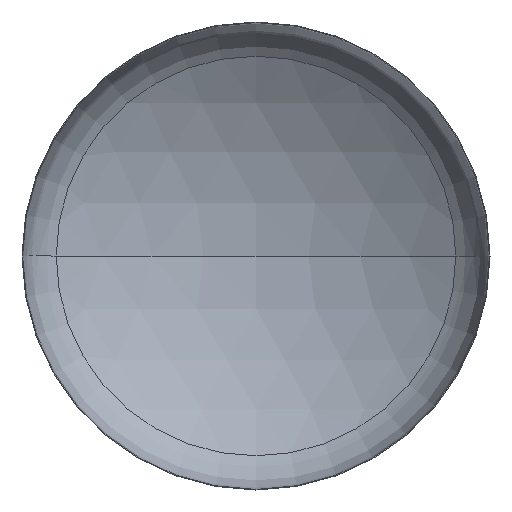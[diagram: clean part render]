
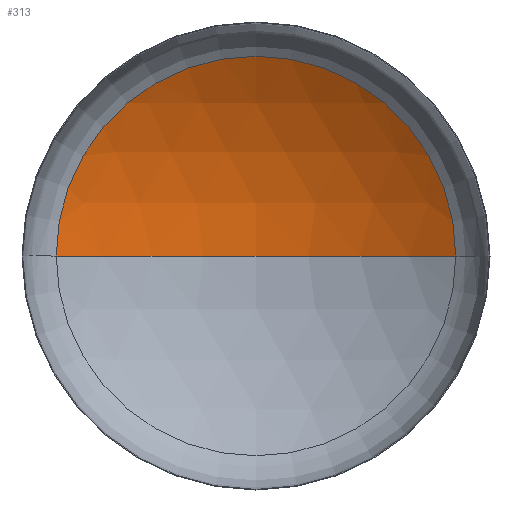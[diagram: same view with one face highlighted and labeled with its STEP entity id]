
A CAD part, front view. The second image highlights one B-rep face of the part: STEP entity #313.
In plain terms, the highlighted spherical face has radius 6400 mm.
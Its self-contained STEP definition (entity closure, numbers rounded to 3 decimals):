
#20 = CARTESIAN_POINT ( 'NONE',  ( 0., 1080.213, 0. ) ) ;
#27 = AXIS2_PLACEMENT_3D ( 'NONE', #89, #92, #52 ) ;
#36 = ORIENTED_EDGE ( 'NONE', *, *, #216, .F. ) ;
#39 = CIRCLE ( 'NONE', #86, 6400. ) ;
#52 = DIRECTION ( 'NONE',  ( -1., 0., 0. ) ) ;
#73 = AXIS2_PLACEMENT_3D ( 'NONE', #250, #137, #156 ) ;
#86 = AXIS2_PLACEMENT_3D ( 'NONE', #383, #337, #111 ) ;
#87 = AXIS2_PLACEMENT_3D ( 'NONE', #20, #164, #212 ) ;
#89 = CARTESIAN_POINT ( 'NONE',  ( 0., -4332.278, 0. ) ) ;
#92 = DIRECTION ( 'NONE',  ( 0., 0., -1. ) ) ;
#111 = DIRECTION ( 'NONE',  ( -1., 0., 0. ) ) ;
#128 = ORIENTED_EDGE ( 'NONE', *, *, #209, .T. ) ;
#130 = VERTEX_POINT ( 'NONE', #227 ) ;
#137 = DIRECTION ( 'NONE',  ( 0., 0., 1. ) ) ;
#156 = DIRECTION ( 'NONE',  ( 1., 0., 0. ) ) ;
#157 = VERTEX_POINT ( 'NONE', #316 ) ;
#164 = DIRECTION ( 'NONE',  ( 0., -1., 0. ) ) ;
#167 = EDGE_LOOP ( 'NONE', ( #36, #194, #128 ) ) ;
#181 = VERTEX_POINT ( 'NONE', #333 ) ;
#194 = ORIENTED_EDGE ( 'NONE', *, *, #213, .T. ) ;
#209 = EDGE_CURVE ( 'NONE', #157, #181, #328, .T. ) ;
#212 = DIRECTION ( 'NONE',  ( 1., 0., 0. ) ) ;
#213 = EDGE_CURVE ( 'NONE', #130, #157, #39, .T. ) ;
#216 = EDGE_CURVE ( 'NONE', #130, #181, #375, .T. ) ;
#227 = CARTESIAN_POINT ( 'NONE',  ( 0., 2067.722, 0. ) ) ;
#250 = CARTESIAN_POINT ( 'NONE',  ( 0., -4332.278, 0. ) ) ;
#311 = FACE_OUTER_BOUND ( 'NONE', #167, .T. ) ;
#313 = ADVANCED_FACE ( 'NONE', ( #311 ), #353, .F. ) ;
#316 = CARTESIAN_POINT ( 'NONE',  ( 3415.397, 1080.213, 0. ) ) ;
#328 = CIRCLE ( 'NONE', #87, 3415.397 ) ;
#333 = CARTESIAN_POINT ( 'NONE',  ( -3415.397, 1080.213, 0. ) ) ;
#337 = DIRECTION ( 'NONE',  ( 0., 0., -1. ) ) ;
#353 = SPHERICAL_SURFACE ( 'NONE', #27, 6400. ) ;
#375 = CIRCLE ( 'NONE', #73, 6400. ) ;
#383 = CARTESIAN_POINT ( 'NONE',  ( 0., -4332.278, 0. ) ) ;
